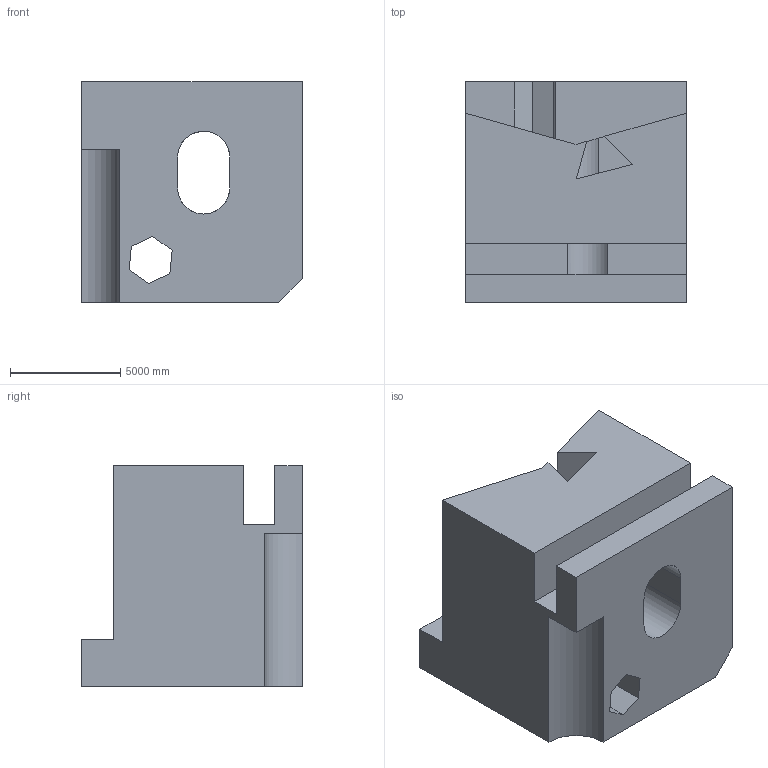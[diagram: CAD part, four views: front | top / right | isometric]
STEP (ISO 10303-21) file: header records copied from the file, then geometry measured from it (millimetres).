
FILE_DESCRIPTION (( 'STEP AP203' ), '1' );
FILE_NAME ('600.STEP', '2022-07-29T12:01:30', ( 'user' ), ( '' ), 'SwSTEP 2.0', 'SolidWorks 2021', '' );
FILE_SCHEMA (( 'CONFIG_CONTROL_DESIGN' ));
Length unit declared in the file: centimetre
Products named in the file (1): 600
Bounding box: 10000 x 10000 x 10000 mm (x, y, z)
Volume: 679446845550 mm3; surface area: 727410165.6 mm2
Topology: 1 solids, 1 shells, 40 faces, 123 edges, 82 vertices
Faces by surface type: plane 34, cylinder 6
Entity records: 1445 total; most frequent: CARTESIAN_POINT 288, ORIENTED_EDGE 246, DIRECTION 200, EDGE_CURVE 123, LINE 100, VECTOR 100, VERTEX_POINT 82, AXIS2_PLACEMENT_3D 50
